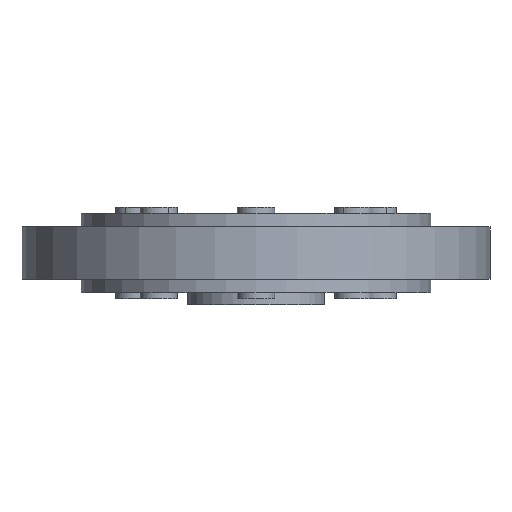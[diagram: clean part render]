
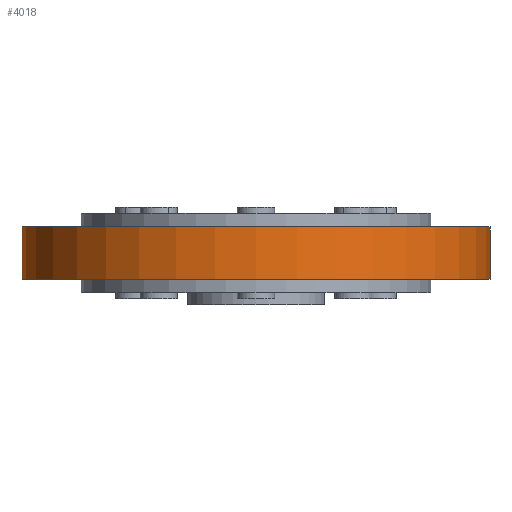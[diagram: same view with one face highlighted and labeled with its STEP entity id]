
A CAD part, front view. The second image highlights one B-rep face of the part: STEP entity #4018.
In plain terms, the highlighted cylindrical face has radius 37.5 mm (diameter 75 mm), a partial arc.
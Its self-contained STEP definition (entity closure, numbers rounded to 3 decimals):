
#71 = DIRECTION ( 'NONE',  ( 0., 0., -1. ) ) ;
#273 = LINE ( 'NONE', #6396, #8578 ) ;
#377 = CIRCLE ( 'NONE', #3379, 37.5 ) ;
#860 = ORIENTED_EDGE ( 'NONE', *, *, #2867, .F. ) ;
#916 = EDGE_LOOP ( 'NONE', ( #860, #3186, #3611, #3283 ) ) ;
#1509 = FACE_OUTER_BOUND ( 'NONE', #916, .T. ) ;
#1801 = CIRCLE ( 'NONE', #6047, 37.5 ) ;
#1898 = CARTESIAN_POINT ( 'NONE',  ( 37.5, 0., -4.2 ) ) ;
#1963 = VERTEX_POINT ( 'NONE', #4758 ) ;
#2289 = DIRECTION ( 'NONE',  ( 0., 0., -1. ) ) ;
#2534 = DIRECTION ( 'NONE',  ( 0., 0., 1. ) ) ;
#2732 = CARTESIAN_POINT ( 'NONE',  ( -37.5, 0., 4.2 ) ) ;
#2867 = EDGE_CURVE ( 'NONE', #1963, #5202, #6685, .T. ) ;
#2968 = DIRECTION ( 'NONE',  ( -1., 0., 0. ) ) ;
#3186 = ORIENTED_EDGE ( 'NONE', *, *, #3198, .F. ) ;
#3198 = EDGE_CURVE ( 'NONE', #7833, #1963, #1801, .T. ) ;
#3283 = ORIENTED_EDGE ( 'NONE', *, *, #3588, .T. ) ;
#3368 = VECTOR ( 'NONE', #71, 1000. ) ;
#3379 = AXIS2_PLACEMENT_3D ( 'NONE', #8452, #7876, #4395 ) ;
#3381 = CARTESIAN_POINT ( 'NONE',  ( 37.5, 0., 4.2 ) ) ;
#3588 = EDGE_CURVE ( 'NONE', #7968, #5202, #377, .T. ) ;
#3611 = ORIENTED_EDGE ( 'NONE', *, *, #7022, .T. ) ;
#3804 = AXIS2_PLACEMENT_3D ( 'NONE', #7703, #6912, #2968 ) ;
#4018 = ADVANCED_FACE ( 'NONE', ( #1509 ), #4206, .T. ) ;
#4206 = CYLINDRICAL_SURFACE ( 'NONE', #3804, 37.5 ) ;
#4395 = DIRECTION ( 'NONE',  ( 1., 0., 0. ) ) ;
#4758 = CARTESIAN_POINT ( 'NONE',  ( 37.5, 0., 4.2 ) ) ;
#5202 = VERTEX_POINT ( 'NONE', #1898 ) ;
#5508 = CARTESIAN_POINT ( 'NONE',  ( -37.5, 0., -4.2 ) ) ;
#5930 = CARTESIAN_POINT ( 'NONE',  ( 0., 0., 4.2 ) ) ;
#6047 = AXIS2_PLACEMENT_3D ( 'NONE', #5930, #2534, #7786 ) ;
#6396 = CARTESIAN_POINT ( 'NONE',  ( -37.5, 0., 4.2 ) ) ;
#6685 = LINE ( 'NONE', #3381, #3368 ) ;
#6912 = DIRECTION ( 'NONE',  ( 0., 0., -1. ) ) ;
#7022 = EDGE_CURVE ( 'NONE', #7833, #7968, #273, .T. ) ;
#7703 = CARTESIAN_POINT ( 'NONE',  ( 0., 0., 4.2 ) ) ;
#7786 = DIRECTION ( 'NONE',  ( 1., 0., 0. ) ) ;
#7833 = VERTEX_POINT ( 'NONE', #2732 ) ;
#7876 = DIRECTION ( 'NONE',  ( 0., 0., 1. ) ) ;
#7968 = VERTEX_POINT ( 'NONE', #5508 ) ;
#8452 = CARTESIAN_POINT ( 'NONE',  ( 0., 0., -4.2 ) ) ;
#8578 = VECTOR ( 'NONE', #2289, 1000. ) ;
